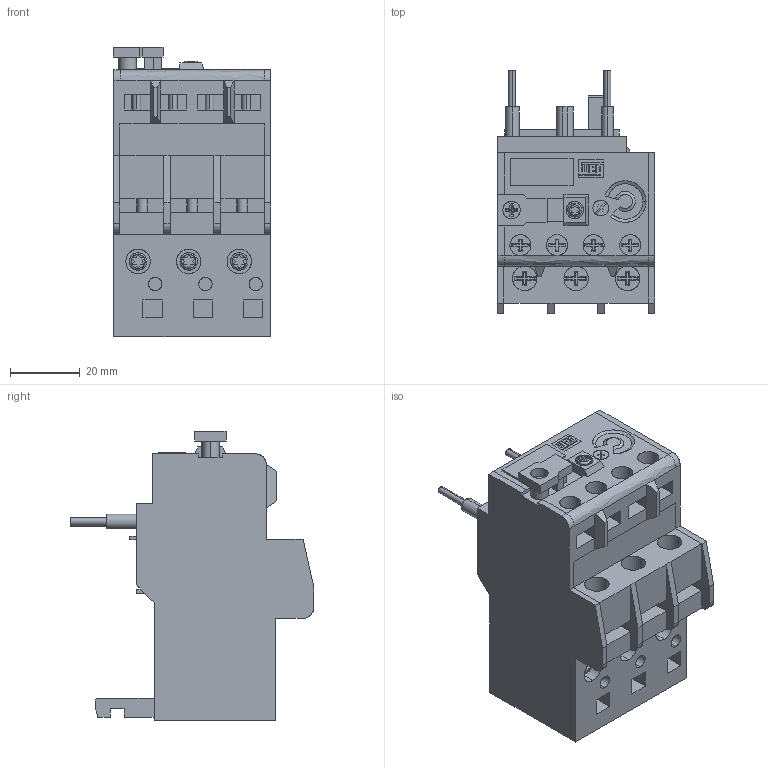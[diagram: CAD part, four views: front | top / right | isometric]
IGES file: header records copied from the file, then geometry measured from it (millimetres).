
Start section: SolidWorks IGES file using analytic representation for surfaces
Global section: file name: Q:\GROUPS\BR_SC_JGS_WA_TECNICO\ENG\Usuarios\Rodrigob\conversão\Reles de Sobrecarga\RW27-1D2\RW27-1D2.IGS; native system: SolidWorks 2009; preprocessor: SolidWorks 2009; author: rodrigob; date: 100128.085703; units: millimetre
Bounding box: 45.1 x 69.75 x 83 mm (x, y, z)
Surface area: 23865.6 mm2 (no closed solid volume)
Topology: 0 solids, 0 shells, 527 faces, 5067 edges, 5060 vertices
Faces by surface type: bspline 441, revolution 86
